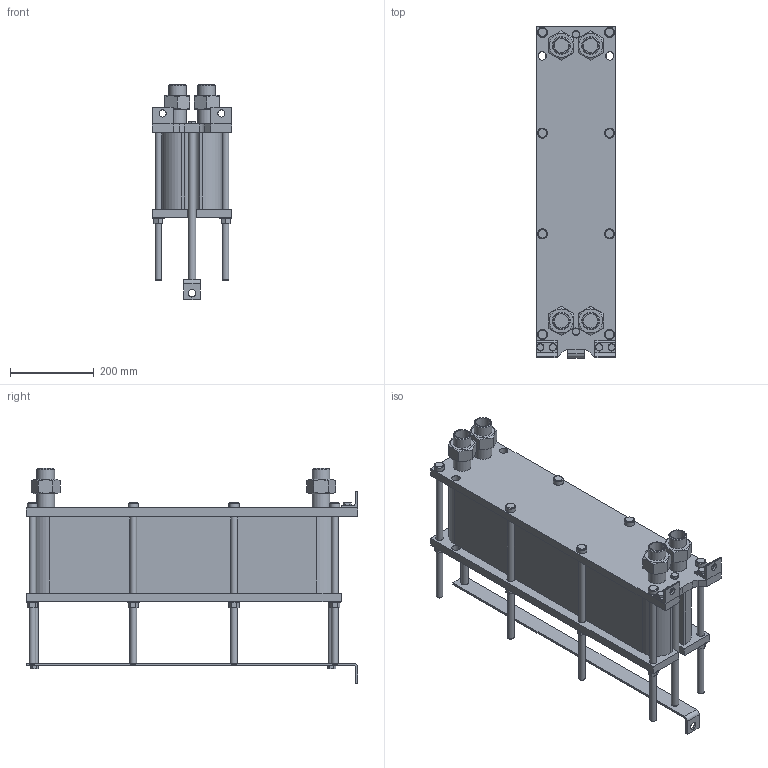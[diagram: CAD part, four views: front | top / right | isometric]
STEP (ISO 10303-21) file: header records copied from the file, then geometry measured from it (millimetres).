
FILE_DESCRIPTION(/* description */ (''),/* implementation_level */ '2;1');
FILE_NAME(/* name */ 'C:\Users\zhuro\Desktop\ENCO\TO\ЭН-008\ЭН-0,5-008-59-1.stp',/* time_stamp */ '2022-06-06T10:50:18+03:00',/* author */ ('zhuro'),/* organization */ (''),/* preprocessor_version */ 'ST-DEVELOPER v18.1',/* originating_system */ 'Autodesk Inventor 2022',/* authorisation */ '');
FILE_SCHEMA (('AUTOMOTIVE_DESIGN { 1 0 10303 214 3 1 1 }','MODEL_BASED_INTEGRATED_MANUFACTURING_SCHEMA'));
Length unit declared in the file: millimetre
Products named in the file (1): ЭН-0,5-008-59-1
Bounding box: 190 x 790 x 512.2 mm (x, y, z)
Volume: 25442269.2 mm3; surface area: 1674712.7 mm2
Topology: 40 solids, 40 shells, 428 faces, 924 edges, 606 vertices
Faces by surface type: plane 273, cylinder 109, cone 40, torus 6
Full cylindrical faces by diameter (mm): 12 x6, 14 x2, 16 x20, 17 x8, 18 x19, 20 x5, 24 x8, 28 x8, 34.3 x8, 42.3 x8
Entity records: 15843 total; most frequent: CARTESIAN_POINT 5991, DIRECTION 1984, ORIENTED_EDGE 1848, EDGE_CURVE 924, AXIS2_PLACEMENT_3D 715, VERTEX_POINT 606, LINE 554, VECTOR 554
